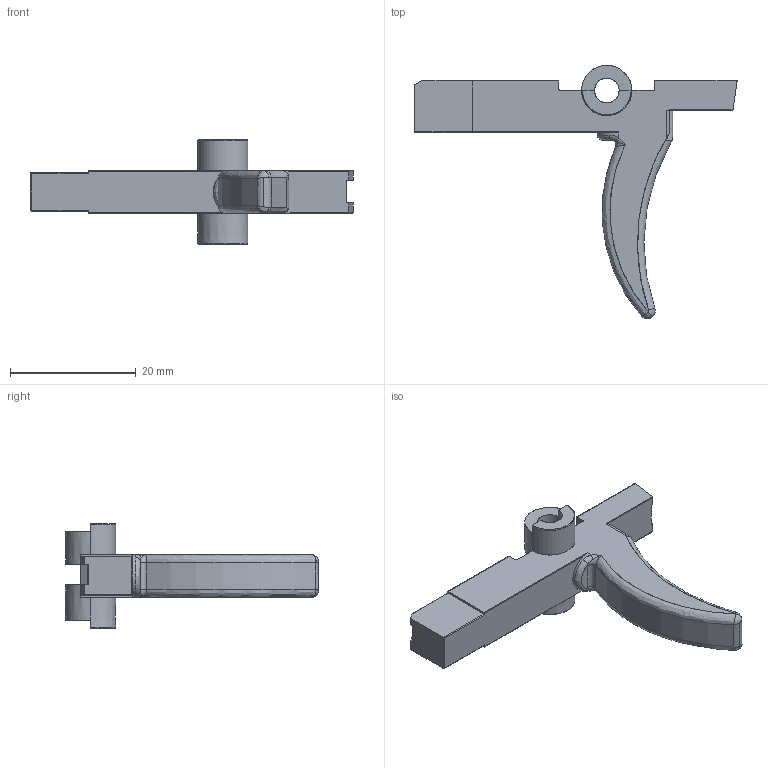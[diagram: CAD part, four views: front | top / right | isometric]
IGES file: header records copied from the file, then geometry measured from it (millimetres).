
Start section: SolidWorks IGES file using analytic representation for surfaces
Global section: file name: E:\AR\Trigger\AR15 semi trigger.IGS; native system: SolidWorks 2012; preprocessor: SolidWorks 2012; author: Gil Laroya; date: 130207.224204; units: inch
Bounding box: 51.18 x 40.2 x 16.56 mm (x, y, z)
Surface area: 3096.2 mm2 (no closed solid volume)
Topology: 0 solids, 0 shells, 110 faces, 1189 edges, 1186 vertices
Faces by surface type: bspline 67, revolution 43
